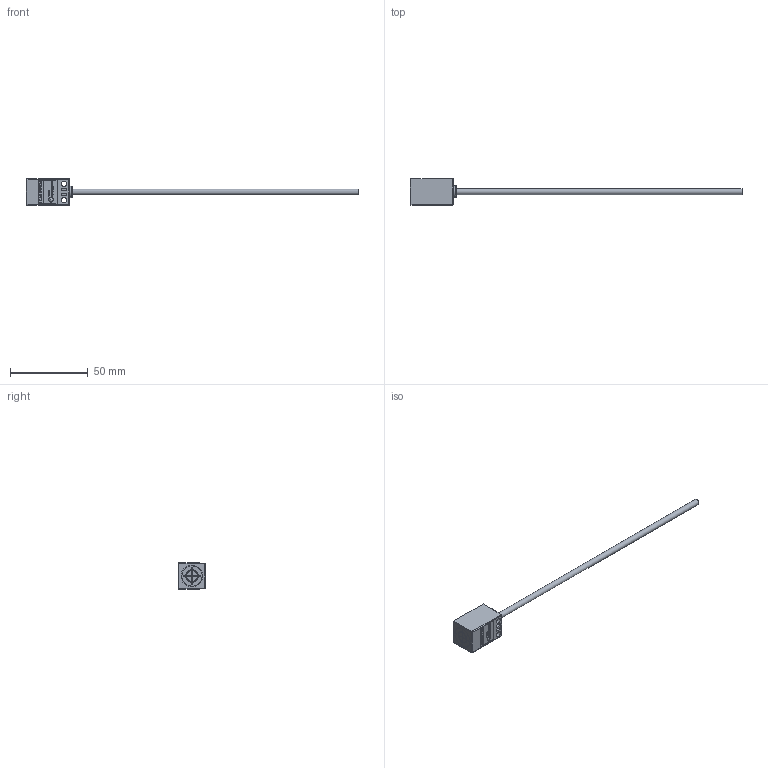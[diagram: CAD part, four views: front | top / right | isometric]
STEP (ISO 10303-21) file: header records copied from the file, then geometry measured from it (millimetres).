
FILE_DESCRIPTION(/* description */ (''),/* implementation_level */ '2;1');
FILE_NAME(/* name */ 'F:\HUAYIFENG\01)HUAYIFENG_宣传文件\HUAYIFENG_\X2\5BA34F2065874EF6\X0\_销售专用\HUAYIFENG_\X2\5BA34F2065874EF6\X0\_销售资料\05)产品销售资料_\X2\63A58FD17CFB5217\X0\\02)接近系列_3D\06)\X2\65B9578B63A58FD1\X0\\TL18.stp',/* time_stamp */ '2017-12-04T17:30:52+08:00',/* author */ ('fengjiarun'),/* organization */ (''),/* preprocessor_version */ 'ST-DEVELOPER v16.5',/* originating_system */ 'Autodesk Inventor 2017',/* authorisation */ '');
FILE_SCHEMA (('AUTOMOTIVE_DESIGN { 1 0 10303 214 3 1 1 }'));
Length unit declared in the file: millimetre
Products named in the file (1): 零件32
Bounding box: 214 x 17 x 17 mm (x, y, z)
Volume: 6482.6 mm3; surface area: 6887.6 mm2
Topology: 3 solids, 3 shells, 490 faces, 1300 edges, 863 vertices
Faces by surface type: plane 304, bspline 153, cylinder 28, sphere 5
Full cylindrical faces by diameter (mm): 3 x2, 3.5 x2, 3.8 x1, 3.85 x1, 7.5 x1, 14 x1
Entity records: 16924 total; most frequent: CARTESIAN_POINT 5227, ORIENTED_EDGE 2574, DIRECTION 1726, EDGE_CURVE 1287, LINE 924, VECTOR 924, VERTEX_POINT 859, EDGE_LOOP 552
